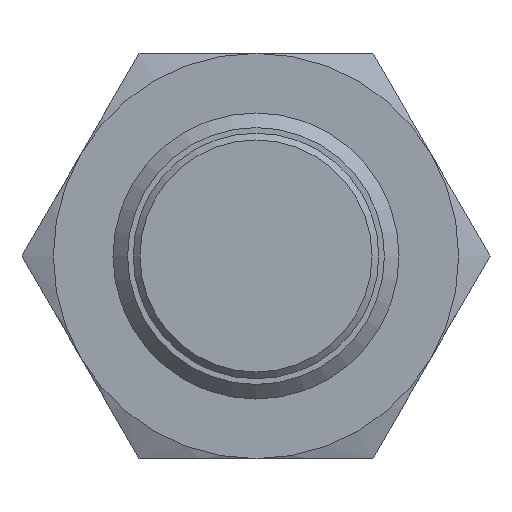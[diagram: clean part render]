
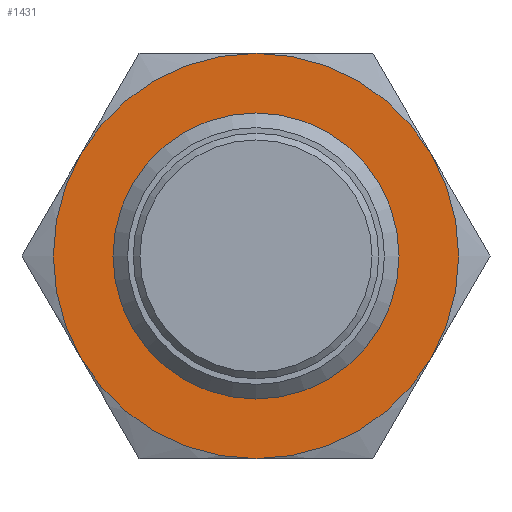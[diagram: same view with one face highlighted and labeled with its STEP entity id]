
A CAD part, left-side view. The second image highlights one B-rep face of the part: STEP entity #1431.
In plain terms, the highlighted planar face has unit normal (-1, 0, 0).
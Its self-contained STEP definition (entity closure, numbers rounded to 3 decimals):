
#92 = PLANE ( 'NONE',  #4126 ) ;
#121 = DIRECTION ( 'NONE',  ( 1., 0., 0. ) ) ;
#170 = CARTESIAN_POINT ( 'NONE',  ( 36., 0., 0. ) ) ;
#191 = CIRCLE ( 'NONE', #4117, 8.5 ) ;
#463 = DIRECTION ( 'NONE',  ( 0., 0., -1. ) ) ;
#583 = CARTESIAN_POINT ( 'NONE',  ( 36., 0., 8.5 ) ) ;
#745 = CARTESIAN_POINT ( 'NONE',  ( 36., 0., 0. ) ) ;
#823 = VERTEX_POINT ( 'NONE', #2108 ) ;
#908 = DIRECTION ( 'NONE',  ( 0., 0., -1. ) ) ;
#980 = CARTESIAN_POINT ( 'NONE',  ( 36., 0., -6. ) ) ;
#1069 = CIRCLE ( 'NONE', #1845, 8.5 ) ;
#1077 = CARTESIAN_POINT ( 'NONE',  ( 36., -7.361, 4.25 ) ) ;
#1106 = ORIENTED_EDGE ( 'NONE', *, *, #1200, .T. ) ;
#1200 = EDGE_CURVE ( 'NONE', #4425, #4425, #3388, .T. ) ;
#1322 = AXIS2_PLACEMENT_3D ( 'NONE', #2501, #2064, #3601 ) ;
#1369 = DIRECTION ( 'NONE',  ( 0., 0., -1. ) ) ;
#1415 = DIRECTION ( 'NONE',  ( 0., 0., -1. ) ) ;
#1431 = ADVANCED_FACE ( 'NONE', ( #4271, #3538 ), #92, .F. ) ;
#1470 = CARTESIAN_POINT ( 'NONE',  ( 36., 0., 0. ) ) ;
#1573 = VERTEX_POINT ( 'NONE', #583 ) ;
#1662 = AXIS2_PLACEMENT_3D ( 'NONE', #1737, #1687, #1369 ) ;
#1687 = DIRECTION ( 'NONE',  ( 1., 0., 0. ) ) ;
#1735 = CIRCLE ( 'NONE', #1662, 8.5 ) ;
#1737 = CARTESIAN_POINT ( 'NONE',  ( 36., 0., 0. ) ) ;
#1845 = AXIS2_PLACEMENT_3D ( 'NONE', #2515, #3658, #4456 ) ;
#1852 = EDGE_CURVE ( 'NONE', #3258, #823, #1735, .T. ) ;
#1979 = CARTESIAN_POINT ( 'NONE',  ( 36., 0., 0. ) ) ;
#2064 = DIRECTION ( 'NONE',  ( 1., 0., 0. ) ) ;
#2108 = CARTESIAN_POINT ( 'NONE',  ( 36., 0., -8.5 ) ) ;
#2212 = DIRECTION ( 'NONE',  ( 1., 0., 0. ) ) ;
#2231 = ORIENTED_EDGE ( 'NONE', *, *, #3238, .F. ) ;
#2272 = EDGE_LOOP ( 'NONE', ( #3206, #4189, #2465, #2231, #2514, #4357 ) ) ;
#2274 = CARTESIAN_POINT ( 'NONE',  ( 36., 7.361, 4.25 ) ) ;
#2295 = DIRECTION ( 'NONE',  ( 0., 0., -1. ) ) ;
#2389 = DIRECTION ( 'NONE',  ( 1., 0., 0. ) ) ;
#2465 = ORIENTED_EDGE ( 'NONE', *, *, #1852, .F. ) ;
#2501 = CARTESIAN_POINT ( 'NONE',  ( 36., 0., 0. ) ) ;
#2514 = ORIENTED_EDGE ( 'NONE', *, *, #3664, .F. ) ;
#2515 = CARTESIAN_POINT ( 'NONE',  ( 36., 0., 0. ) ) ;
#2872 = VERTEX_POINT ( 'NONE', #1077 ) ;
#2949 = DIRECTION ( 'NONE',  ( 1., 0., 0. ) ) ;
#2953 = EDGE_CURVE ( 'NONE', #4742, #1573, #1069, .T. ) ;
#3076 = AXIS2_PLACEMENT_3D ( 'NONE', #4338, #3945, #4840 ) ;
#3131 = EDGE_CURVE ( 'NONE', #4505, #4742, #191, .T. ) ;
#3206 = ORIENTED_EDGE ( 'NONE', *, *, #3131, .F. ) ;
#3238 = EDGE_CURVE ( 'NONE', #2872, #3258, #3630, .T. ) ;
#3258 = VERTEX_POINT ( 'NONE', #4007 ) ;
#3388 = CIRCLE ( 'NONE', #3076, 6. ) ;
#3538 = FACE_BOUND ( 'NONE', #4490, .T. ) ;
#3601 = DIRECTION ( 'NONE',  ( 0., 0., -1. ) ) ;
#3630 = CIRCLE ( 'NONE', #3881, 8.5 ) ;
#3636 = CIRCLE ( 'NONE', #1322, 8.5 ) ;
#3658 = DIRECTION ( 'NONE',  ( 1., 0., 0. ) ) ;
#3664 = EDGE_CURVE ( 'NONE', #1573, #2872, #3636, .T. ) ;
#3881 = AXIS2_PLACEMENT_3D ( 'NONE', #170, #2949, #1415 ) ;
#3896 = EDGE_CURVE ( 'NONE', #823, #4505, #4709, .T. ) ;
#3945 = DIRECTION ( 'NONE',  ( 1., 0., 0. ) ) ;
#4007 = CARTESIAN_POINT ( 'NONE',  ( 36., -7.361, -4.25 ) ) ;
#4117 = AXIS2_PLACEMENT_3D ( 'NONE', #1470, #121, #908 ) ;
#4126 = AXIS2_PLACEMENT_3D ( 'NONE', #1979, #2389, #463 ) ;
#4189 = ORIENTED_EDGE ( 'NONE', *, *, #3896, .F. ) ;
#4271 = FACE_OUTER_BOUND ( 'NONE', #2272, .T. ) ;
#4307 = CARTESIAN_POINT ( 'NONE',  ( 36., 7.361, -4.25 ) ) ;
#4338 = CARTESIAN_POINT ( 'NONE',  ( 36., 0., 0. ) ) ;
#4357 = ORIENTED_EDGE ( 'NONE', *, *, #2953, .F. ) ;
#4425 = VERTEX_POINT ( 'NONE', #980 ) ;
#4456 = DIRECTION ( 'NONE',  ( 0., 0., -1. ) ) ;
#4490 = EDGE_LOOP ( 'NONE', ( #1106 ) ) ;
#4505 = VERTEX_POINT ( 'NONE', #4307 ) ;
#4709 = CIRCLE ( 'NONE', #4788, 8.5 ) ;
#4742 = VERTEX_POINT ( 'NONE', #2274 ) ;
#4788 = AXIS2_PLACEMENT_3D ( 'NONE', #745, #2212, #2295 ) ;
#4840 = DIRECTION ( 'NONE',  ( 0., 0., -1. ) ) ;
